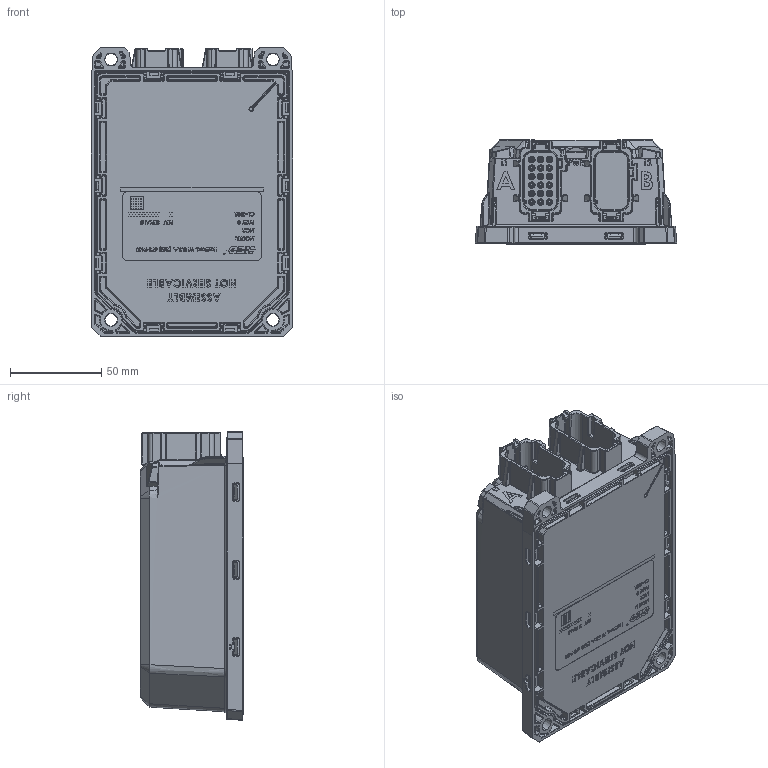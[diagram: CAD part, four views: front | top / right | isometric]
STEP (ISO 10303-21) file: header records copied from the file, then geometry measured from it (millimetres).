
FILE_DESCRIPTION (( 'STEP AP214' ), '1' );
FILE_NAME ('CL-4002.STEP', '2026-04-07T19:34:42', ( '' ), ( '' ), 'SwSTEP 2.0', 'SolidWorks 2024', '' );
FILE_SCHEMA (( 'AUTOMOTIVE_DESIGN' ));
Length unit declared in the file: millimetre
Products named in the file (1): CL-4002
Bounding box: 110.52 x 57.06 x 158.51 mm (x, y, z)
Volume: 210432 mm3; surface area: 210122.4 mm2
Topology: 37 solids, 38 shells, 7717 faces, 19329 edges, 11780 vertices
Faces by surface type: cylinder 2685, bspline 2046, plane 2019, sphere 419, torus 330, cone 218
Entity records: 275094 total; most frequent: CARTESIAN_POINT 110652, ORIENTED_EDGE 38096, DIRECTION 29973, EDGE_CURVE 19048, VERTEX_POINT 11708, AXIS2_PLACEMENT_3D 11121, EDGE_LOOP 8248, VECTOR 7731
